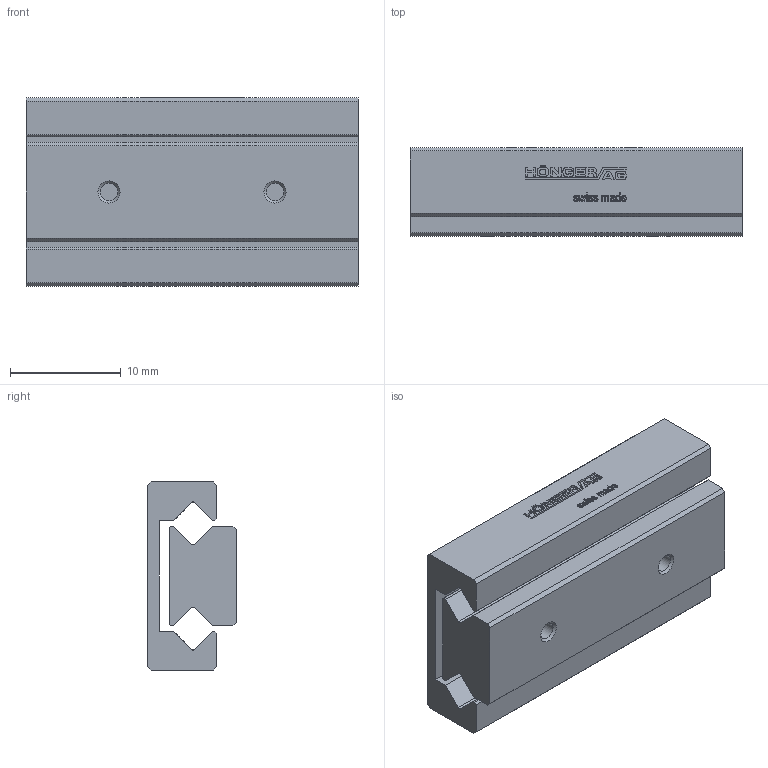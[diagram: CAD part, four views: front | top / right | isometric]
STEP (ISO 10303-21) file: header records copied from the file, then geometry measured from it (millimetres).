
FILE_DESCRIPTION(/* description */ ('STEP AP214'),/* implementation_level */ '2;1');
FILE_NAME(/* name */ 'MSR 7-30.22(0)',/* time_stamp */ '2025-04-16T17:20:54+02:00',/* author */ ('License CC BY-ND 4.0'),/* organization */ ('CADENAS'),/* preprocessor_version */ 'ST-DEVELOPER v19.3',/* originating_system */ 'PARTsolutions',/* authorisation */ ' ');
FILE_SCHEMA (('AUTOMOTIVE_DESIGN {1 0 10303 214 3 1 1}'));
Length unit declared in the file: millimetre
Products named in the file (3): MSR 7-30.22(0); MSR 7-30.22_1; MSR 7-30.22_2
Assembly tree (2 placements, depth 2):
  MSR 7-30.22(0)
    MSR 7-30.22_1
    MSR 7-30.22_2
Bounding box: 30 x 8 x 17 mm (x, y, z)
Volume: 2827.8 mm3; surface area: 3044.2 mm2
Topology: 2 solids, 2 shells, 523 faces, 1468 edges, 976 vertices
Faces by surface type: cylinder 302, plane 213, cone 8
Full cylindrical faces by diameter (mm): 1.567 x6
Entity records: 17087 total; most frequent: DIRECTION 3118, CARTESIAN_POINT 2948, ORIENTED_EDGE 2900, EDGE_CURVE 1450, AXIS2_PLACEMENT_3D 1142, VERTEX_POINT 972, LINE 834, VECTOR 834
